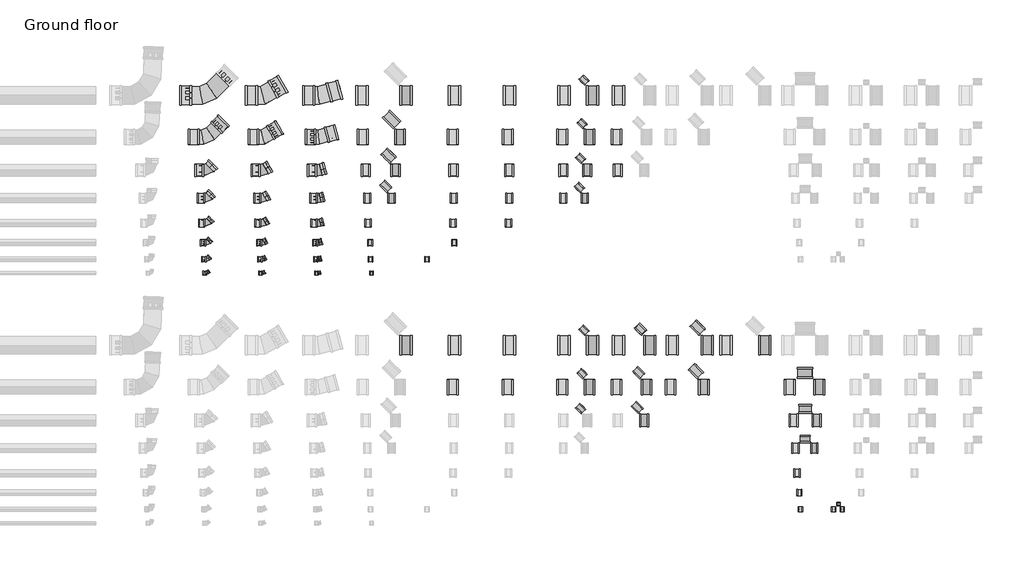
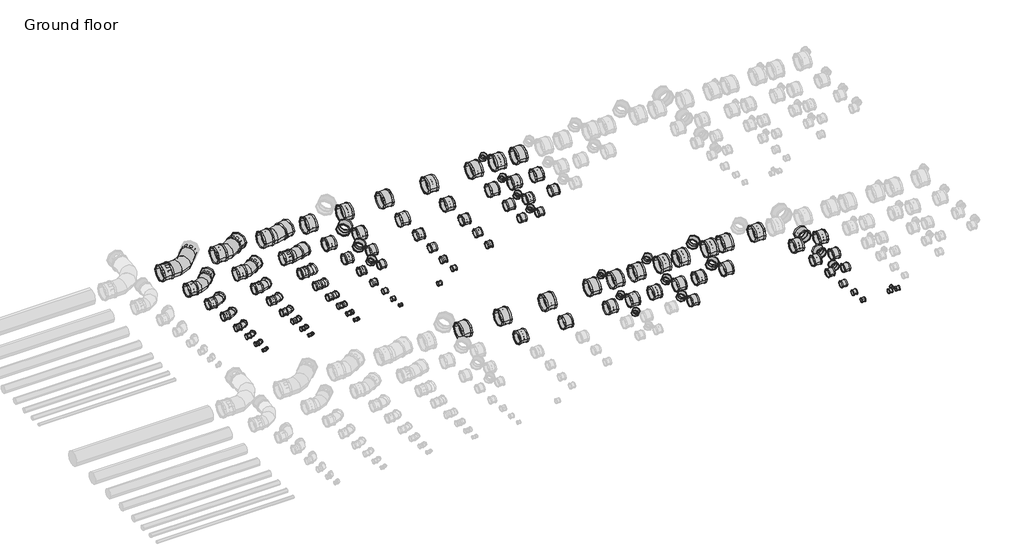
# One storey, part 3 of 14: 138 pipe fittings.
"""IFC4 building model written with IfcOpenShell, lengths in millimetres."""

from ifc_helpers import new_model, si_unit, origin, place, context, project, spatial, transform, mapped, element, save
from components import pipe_fitting_e5a81f0f, pipe_fitting_366f8f33, pipe_fitting_0ebad727, pipe_fitting_3dc9645f, pipe_fitting_b5a722ff, pipe_fitting_a818c1c7, pipe_fitting_9bc79c39, pipe_fitting_2c23b5e5, blue_8a6e1d2f, blue_6a90c062, blue_68ca3d6e, blue_9c2ccc73, blue_e60a5e92, blue_be0330f0, blue_8c50e030, blue_66bd3a30, blue_cd4b49a2, blue_58710f0b, blue_3e8714aa, blue_1fd363ef, blue_119fea42, blue_49925300, blue_168d1bee, blue_045a93d3, blue_ad261573, blue_5f6e9122, blue_0398ec3c, orange_d04369bb, blue_fd0dfc69, orange_f85f7f18, blue_b37b0867, orange_b2441087

model = new_model("IFC4")

# Units and contexts
model_context = context("Model", 3, world=origin())
ifc_project = project(units=[si_unit("LENGTHUNIT", "METRE", prefix="MILLI")], contexts=[model_context])

# Site, building, storey
site = spatial("IfcSite", under=ifc_project)
building = spatial("IfcBuilding", under=site)
storey = spatial("IfcBuildingStorey", under=building, Name="Ground floor", Elevation=0.0)

# Pipe fittings
placement = place(None, origin())
pipe_fitting_shape = pipe_fitting_e5a81f0f(model_context)
element("IfcPipeFitting", 1, ObjectType="AWADUKT PP Union DSM : Orange No PID", at=placement, inside=storey, context=model_context, shape_type="MappedRepresentation", body=[
    mapped(pipe_fitting_shape, transform((32771.0, 11700.0, 0.0), x_axis=(1.0, 0.0, 0.0), y_axis=(0.0, 1.0, 0.0), z_axis=(0.0, 0.0, 1.0))),
])
element("IfcPipeFitting", 2, ObjectType="AWADUKT PP Union DSM : Orange No PID", at=placement, inside=storey, context=model_context, shape_type="MappedRepresentation", body=[
    mapped(pipe_fitting_shape, transform((34796.0, 11700.0, 0.0), x_axis=(1.0, 0.0, 0.0), y_axis=(0.0, 1.0, 0.0), z_axis=(0.0, 0.0, 1.0))),
])
element("IfcPipeFitting", 3, ObjectType="AWADUKT PP Union DSM : Orange No PID", at=placement, inside=storey, context=model_context, shape_type="MappedRepresentation", body=[
    mapped(pipe_fitting_shape, transform((36820.0, 11700.0, 0.0), x_axis=(1.0, 0.0, 0.0), y_axis=(0.0, 1.0, 0.0), z_axis=(0.0, 0.0, 1.0))),
])
element("IfcPipeFitting", 4, ObjectType="AWADUKT PP Union DSM : Orange No PID", at=placement, inside=storey, context=model_context, shape_type="MappedRepresentation", body=[
    mapped(pipe_fitting_shape, transform((38753.0, 11700.0, 0.0), x_axis=(1.0, 0.0, 0.0), y_axis=(0.0, 1.0, 0.0), z_axis=(0.0, 0.0, 1.0))),
])
element("IfcPipeFitting", 5, ObjectType="AWADUKT PP Union DSM : Orange No PID", at=placement, inside=storey, context=model_context, shape_type="MappedRepresentation", body=[
    mapped(pipe_fitting_shape, transform((39629.0, 11700.0, 0.0), x_axis=(-1.0, 0.0, 0.0), y_axis=(0.0, -1.0, 0.0), z_axis=(0.0, 0.0, 1.0))),
])
element("IfcPipeFitting", 6, ObjectType="AWADUKT PP Union DSM : Orange No PID", at=placement, inside=storey, context=model_context, shape_type="MappedRepresentation", body=[
    mapped(pipe_fitting_shape, transform((39420.7285348, 12120.7285348, 0.0), x_axis=(0.7071067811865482, 0.7071067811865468, 0.0), y_axis=(-0.7071067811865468, 0.7071067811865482, 0.0), z_axis=(0.0, 0.0, 1.0))),
])
element("IfcPipeFitting", 7, ObjectType="AWADUKT PP Union DSM : Orange No PID", at=placement, inside=storey, context=model_context, shape_type="MappedRepresentation", body=[
    mapped(pipe_fitting_shape, transform((41863.0, 11700.0, 0.0), x_axis=(1.0, 0.0, 0.0), y_axis=(0.0, 1.0, 0.0), z_axis=(0.0, 0.0, 1.0))),
])
element("IfcPipeFitting", 8, ObjectType="AWADUKT PP Union DSM : Orange No PID", at=placement, inside=storey, context=model_context, shape_type="MappedRepresentation", body=[
    mapped(pipe_fitting_shape, transform((43859.0, 11700.0, 0.0), x_axis=(1.0, 0.0, 0.0), y_axis=(0.0, 1.0, 0.0), z_axis=(0.0, 0.0, 1.0))),
])
element("IfcPipeFitting", 9, ObjectType="AWADUKT PP Union DSM : Orange No PID", at=placement, inside=storey, context=model_context, shape_type="MappedRepresentation", body=[
    mapped(pipe_fitting_shape, transform((45799.0, 11700.0, 0.0), x_axis=(1.0, 0.0, 0.0), y_axis=(0.0, 1.0, 0.0), z_axis=(0.0, 0.0, 1.0))),
])
element("IfcPipeFitting", 10, ObjectType="AWADUKT PP Union DSM : Orange No PID", at=placement, inside=storey, context=model_context, shape_type="MappedRepresentation", body=[
    mapped(pipe_fitting_shape, transform((46582.0, 11700.0, 0.0), x_axis=(-1.0, 0.0, 0.0), y_axis=(0.0, -1.0, 0.0), z_axis=(0.0, 0.0, 1.0))),
])
pipe_fitting_2_shape = pipe_fitting_366f8f33(model_context)
element("IfcPipeFitting", 11, ObjectType="AWADUKT PP Union DSM : Blue No PID", at=placement, inside=storey, context=model_context, shape_type="MappedRepresentation", body=[
    mapped(pipe_fitting_2_shape, transform((40155.0, 6400.0, 0.0), x_axis=(-1.0, 0.0, 0.0), y_axis=(0.0, -1.0, 0.0), z_axis=(0.0, 0.0, 1.0))),
])
element("IfcPipeFitting", 12, ObjectType="AWADUKT PP Union DSM : Blue No PID", at=placement, inside=storey, context=model_context, shape_type="MappedRepresentation", body=[
    mapped(pipe_fitting_2_shape, transform((41891.0, 6400.0, 0.0), x_axis=(1.0, 0.0, 0.0), y_axis=(0.0, 1.0, 0.0), z_axis=(0.0, 0.0, 1.0))),
])
element("IfcPipeFitting", 13, ObjectType="AWADUKT PP Union DSM : Blue No PID", at=placement, inside=storey, context=model_context, shape_type="MappedRepresentation", body=[
    mapped(pipe_fitting_2_shape, transform((43863.0, 6400.0, 0.0), x_axis=(1.0, 0.0, 0.0), y_axis=(0.0, 1.0, 0.0), z_axis=(0.0, 0.0, 1.0))),
])
element("IfcPipeFitting", 14, ObjectType="AWADUKT PP Union DSM : Blue No PID", at=placement, inside=storey, context=model_context, shape_type="MappedRepresentation", body=[
    mapped(pipe_fitting_2_shape, transform((45827.0, 6400.0, 0.0), x_axis=(1.0, 0.0, 0.0), y_axis=(0.0, 1.0, 0.0), z_axis=(0.0, 0.0, 1.0))),
])
element("IfcPipeFitting", 15, ObjectType="AWADUKT PP Union DSM : Blue No PID", at=placement, inside=storey, context=model_context, shape_type="MappedRepresentation", body=[
    mapped(pipe_fitting_2_shape, transform((46860.0, 6400.0, 0.0), x_axis=(-1.0, 0.0, 0.0), y_axis=(0.0, -1.0, 0.0), z_axis=(0.0, 0.0, 1.0))),
])
element("IfcPipeFitting", 16, ObjectType="AWADUKT PP Union DSM : Blue No PID", at=placement, inside=storey, context=model_context, shape_type="MappedRepresentation", body=[
    mapped(pipe_fitting_2_shape, transform((47781.0, 6400.0, 0.0), x_axis=(1.0, 0.0, 0.0), y_axis=(0.0, 1.0, 0.0), z_axis=(0.0, 0.0, 1.0))),
])
element("IfcPipeFitting", 17, ObjectType="AWADUKT PP Union DSM : Blue No PID", at=placement, inside=storey, context=model_context, shape_type="MappedRepresentation", body=[
    mapped(pipe_fitting_2_shape, transform((48921.0, 6400.0, 0.0), x_axis=(-1.0, 0.0, 0.0), y_axis=(0.0, -1.0, 0.0), z_axis=(0.0, 0.0, 1.0))),
])
element("IfcPipeFitting", 18, ObjectType="AWADUKT PP Union DSM : Blue No PID", at=placement, inside=storey, context=model_context, shape_type="MappedRepresentation", body=[
    mapped(pipe_fitting_2_shape, transform((49721.0, 6400.0, 0.0), x_axis=(1.0, 0.0, 0.0), y_axis=(0.0, 1.0, 0.0), z_axis=(0.0, 0.0, 1.0))),
])
element("IfcPipeFitting", 19, ObjectType="AWADUKT PP Union DSM : Blue No PID", at=placement, inside=storey, context=model_context, shape_type="MappedRepresentation", body=[
    mapped(pipe_fitting_2_shape, transform((50987.0, 6400.0, 0.0), x_axis=(-1.0, 0.0, 0.0), y_axis=(0.0, -1.0, 0.0), z_axis=(0.0, 0.0, 1.0))),
])
element("IfcPipeFitting", 20, ObjectType="AWADUKT PP Union DSM : Blue No PID", at=placement, inside=storey, context=model_context, shape_type="MappedRepresentation", body=[
    mapped(pipe_fitting_2_shape, transform((51650.0, 6400.0, 0.0), x_axis=(1.0, 0.0, 0.0), y_axis=(0.0, 1.0, 0.0), z_axis=(0.0, 0.0, 1.0))),
])
element("IfcPipeFitting", 21, ObjectType="AWADUKT PP Union DSM : Blue No PID", at=placement, inside=storey, context=model_context, shape_type="MappedRepresentation", body=[
    mapped(pipe_fitting_2_shape, transform((53054.0, 6400.0, 0.0), x_axis=(-1.0, 0.0, 0.0), y_axis=(0.0, -1.0, 0.0), z_axis=(0.0, 0.0, 1.0))),
])
pipe_fitting_3_shape = pipe_fitting_0ebad727(model_context)
element("IfcPipeFitting", 22, ObjectType="AWADUKT PP Union DSM : Blue No PID", at=placement, inside=storey, context=model_context, shape_type="MappedRepresentation", body=[
    mapped(pipe_fitting_3_shape, transform((55700.0, 690.0, 0.0), x_axis=(0.0, 1.0, 0.0), y_axis=(-1.0, 0.0, 0.0), z_axis=(0.0, 0.0, 1.0))),
])
pipe_fitting_4_shape = pipe_fitting_3dc9645f(model_context)
element("IfcPipeFitting", 23, ObjectType="AWADUKT PP Union DSM : Blue No PID", at=placement, inside=storey, context=model_context, shape_type="MappedRepresentation", body=[
    mapped(pipe_fitting_4_shape, transform((54326.0, 500.0, 0.0), x_axis=(1.0, 0.0, 0.0), y_axis=(0.0, 1.0, 0.0), z_axis=(0.0, 0.0, 1.0))),
])
element("IfcPipeFitting", 24, ObjectType="AWADUKT PP Union DSM : Blue No PID", at=placement, inside=storey, context=model_context, shape_type="MappedRepresentation", body=[
    mapped(pipe_fitting_4_shape, transform((55524.0, 500.0, 0.0), x_axis=(1.0, 0.0, 0.0), y_axis=(0.0, 1.0, 0.0), z_axis=(0.0, 0.0, 1.0))),
])
element("IfcPipeFitting", 25, ObjectType="AWADUKT PP Union DSM : Blue No PID", at=placement, inside=storey, context=model_context, shape_type="MappedRepresentation", body=[
    mapped(pipe_fitting_4_shape, transform((55839.0, 500.0, 0.0), x_axis=(-1.0, 0.0, 0.0), y_axis=(0.0, -1.0, 0.0), z_axis=(0.0, 0.0, 1.0))),
])
pipe_fitting_5_shape = pipe_fitting_b5a722ff(model_context)
element("IfcPipeFitting", 26, ObjectType="AWADUKT PP Union DSM : Blue No PID", at=placement, inside=storey, context=model_context, shape_type="MappedRepresentation", body=[
    mapped(pipe_fitting_5_shape, transform((54294.1, 1100.0, 0.0), x_axis=(1.0, 0.0, 0.0), y_axis=(0.0, 1.0, 0.0), z_axis=(0.0, 0.0, 1.0))),
])
pipe_fitting_6_shape = pipe_fitting_a818c1c7(model_context)
element("IfcPipeFitting", 27, ObjectType="AWADUKT PP Union DSM : Blue No PID", at=placement, inside=storey, context=model_context, shape_type="MappedRepresentation", body=[
    mapped(pipe_fitting_6_shape, transform((46424.2640687, 4124.2640687, 0.0), x_axis=(0.7071067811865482, 0.7071067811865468, 0.0), y_axis=(-0.7071067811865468, 0.7071067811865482, 0.0), z_axis=(0.0, 0.0, 1.0))),
])
element("IfcPipeFitting", 28, ObjectType="AWADUKT PP Union DSM : Blue No PID", at=placement, inside=storey, context=model_context, shape_type="MappedRepresentation", body=[
    mapped(pipe_fitting_6_shape, transform((46480.8326112, 5380.8326112, 0.0), x_axis=(0.7071067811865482, 0.7071067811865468, 0.0), y_axis=(-0.7071067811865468, 0.7071067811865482, 0.0), z_axis=(0.0, 0.0, 1.0))),
])
element("IfcPipeFitting", 29, ObjectType="AWADUKT PP Union DSM : Blue No PID", at=placement, inside=storey, context=model_context, shape_type="MappedRepresentation", body=[
    mapped(pipe_fitting_6_shape, transform((46544.4722215, 6944.4722215, 0.0), x_axis=(0.7071067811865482, 0.7071067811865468, 0.0), y_axis=(-0.7071067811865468, 0.7071067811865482, 0.0), z_axis=(0.0, 0.0, 1.0))),
])
element("IfcPipeFitting", 30, ObjectType="AWADUKT PP Union DSM : Blue No PID", at=placement, inside=storey, context=model_context, shape_type="MappedRepresentation", body=[
    mapped(pipe_fitting_6_shape, transform((54204.0, 1800.0, 0.0), x_axis=(1.0, 0.0, 0.0), y_axis=(0.0, 1.0, 0.0), z_axis=(0.0, 0.0, 1.0))),
])
element("IfcPipeFitting", 31, ObjectType="AWADUKT PP Union DSM : Blue No PID", at=placement, inside=storey, context=model_context, shape_type="MappedRepresentation", body=[
    mapped(pipe_fitting_shape, transform((48463.1549417, 4163.1549417, 0.0), x_axis=(0.7071067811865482, 0.7071067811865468, 0.0), y_axis=(-0.7071067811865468, 0.7071067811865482, 0.0), z_axis=(0.0, 0.0, 1.0))),
])
element("IfcPipeFitting", 32, ObjectType="AWADUKT PP Union DSM : Blue No PID", at=placement, inside=storey, context=model_context, shape_type="MappedRepresentation", body=[
    mapped(pipe_fitting_shape, transform((48516.1879503, 5416.1879503, 0.0), x_axis=(0.7071067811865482, 0.7071067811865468, 0.0), y_axis=(-0.7071067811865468, 0.7071067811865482, 0.0), z_axis=(0.0, 0.0, 1.0))),
])
element("IfcPipeFitting", 33, ObjectType="AWADUKT PP Union DSM : Blue No PID", at=placement, inside=storey, context=model_context, shape_type="MappedRepresentation", body=[
    mapped(pipe_fitting_shape, transform((48579.8275606, 6979.8275606, 0.0), x_axis=(0.7071067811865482, 0.7071067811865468, 0.0), y_axis=(-0.7071067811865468, 0.7071067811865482, 0.0), z_axis=(0.0, 0.0, 1.0))),
])
element("IfcPipeFitting", 34, ObjectType="AWADUKT PP Union DSM : Blue No PID", at=placement, inside=storey, context=model_context, shape_type="MappedRepresentation", body=[
    mapped(pipe_fitting_shape, transform((54151.0, 2700.0, 0.0), x_axis=(1.0, 0.0, 0.0), y_axis=(0.0, 1.0, 0.0), z_axis=(0.0, 0.0, 1.0))),
])
element("IfcPipeFitting", 35, ObjectType="AWADUKT PP Union DSM : Blue No PID", at=placement, inside=storey, context=model_context, shape_type="MappedRepresentation", body=[
    mapped(pipe_fitting_shape, transform((54832.0, 2700.0, 0.0), x_axis=(-1.0, 0.0, 0.0), y_axis=(0.0, -1.0, 0.0), z_axis=(0.0, 0.0, 1.0))),
])
element("IfcPipeFitting", 36, ObjectType="AWADUKT PP Union DSM : Blue No PID", at=placement, inside=storey, context=model_context, shape_type="MappedRepresentation", body=[
    mapped(pipe_fitting_shape, transform((54500.0, 3025.0, 0.0), x_axis=(0.0, 1.0, 0.0), y_axis=(-1.0, 0.0, 0.0), z_axis=(0.0, 0.0, 1.0))),
])
pipe_fitting_7_shape = pipe_fitting_9bc79c39(model_context)
element("IfcPipeFitting", 37, ObjectType="AWADUKT PP Union DSM : Blue No PID", at=placement, inside=storey, context=model_context, shape_type="MappedRepresentation", body=[
    mapped(pipe_fitting_7_shape, transform((48714.0, 3700.0, 0.0), x_axis=(-1.0, 0.0, 0.0), y_axis=(0.0, -1.0, 0.0), z_axis=(0.0, 0.0, 1.0))),
])
element("IfcPipeFitting", 38, ObjectType="AWADUKT PP Union DSM : Blue No PID", at=placement, inside=storey, context=model_context, shape_type="MappedRepresentation", body=[
    mapped(pipe_fitting_7_shape, transform((50572.7564928, 5472.7564928, 0.0), x_axis=(0.7071067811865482, 0.7071067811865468, 0.0), y_axis=(-0.7071067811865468, 0.7071067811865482, 0.0), z_axis=(0.0, 0.0, 1.0))),
])
element("IfcPipeFitting", 39, ObjectType="AWADUKT PP Union DSM : Blue No PID", at=placement, inside=storey, context=model_context, shape_type="MappedRepresentation", body=[
    mapped(pipe_fitting_7_shape, transform((50636.3961031, 7036.3961031, 0.0), x_axis=(0.7071067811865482, 0.7071067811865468, 0.0), y_axis=(-0.7071067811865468, 0.7071067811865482, 0.0), z_axis=(0.0, 0.0, 1.0))),
])
element("IfcPipeFitting", 40, ObjectType="AWADUKT PP Union DSM : Blue No PID", at=placement, inside=storey, context=model_context, shape_type="MappedRepresentation", body=[
    mapped(pipe_fitting_7_shape, transform((54081.0, 3700.0, 0.0), x_axis=(1.0, 0.0, 0.0), y_axis=(0.0, 1.0, 0.0), z_axis=(0.0, 0.0, 1.0))),
])
element("IfcPipeFitting", 41, ObjectType="AWADUKT PP Union DSM : Blue No PID", at=placement, inside=storey, context=model_context, shape_type="MappedRepresentation", body=[
    mapped(pipe_fitting_7_shape, transform((54919.0, 3700.0, 0.0), x_axis=(-1.0, 0.0, 0.0), y_axis=(0.0, -1.0, 0.0), z_axis=(0.0, 0.0, 1.0))),
])
element("IfcPipeFitting", 42, ObjectType="AWADUKT PP Union DSM : Blue No PID", at=placement, inside=storey, context=model_context, shape_type="MappedRepresentation", body=[
    mapped(pipe_fitting_7_shape, transform((54500.0, 4110.0, 0.0), x_axis=(0.0, 1.0, 0.0), y_axis=(-1.0, 0.0, 0.0), z_axis=(0.0, 0.0, 1.0))),
])
pipe_fitting_8_shape = pipe_fitting_2c23b5e5(model_context)
element("IfcPipeFitting", 43, ObjectType="AWADUKT PP Union DSM : Blue No PID", at=placement, inside=storey, context=model_context, shape_type="MappedRepresentation", body=[
    mapped(pipe_fitting_8_shape, transform((41826.0, 4900.0, 0.0), x_axis=(1.0, 0.0, 0.0), y_axis=(0.0, 1.0, 0.0), z_axis=(0.0, 0.0, 1.0))),
])
element("IfcPipeFitting", 44, ObjectType="AWADUKT PP Union DSM : Blue No PID", at=placement, inside=storey, context=model_context, shape_type="MappedRepresentation", body=[
    mapped(pipe_fitting_8_shape, transform((43798.0, 4900.0, 0.0), x_axis=(1.0, 0.0, 0.0), y_axis=(0.0, 1.0, 0.0), z_axis=(0.0, 0.0, 1.0))),
])
element("IfcPipeFitting", 45, ObjectType="AWADUKT PP Union DSM : Blue No PID", at=placement, inside=storey, context=model_context, shape_type="MappedRepresentation", body=[
    mapped(pipe_fitting_8_shape, transform((45762.0, 4900.0, 0.0), x_axis=(1.0, 0.0, 0.0), y_axis=(0.0, 1.0, 0.0), z_axis=(0.0, 0.0, 1.0))),
])
element("IfcPipeFitting", 46, ObjectType="AWADUKT PP Union DSM : Blue No PID", at=placement, inside=storey, context=model_context, shape_type="MappedRepresentation", body=[
    mapped(pipe_fitting_8_shape, transform((46751.0, 4900.0, 0.0), x_axis=(-1.0, 0.0, 0.0), y_axis=(0.0, -1.0, 0.0), z_axis=(0.0, 0.0, 1.0))),
])
element("IfcPipeFitting", 47, ObjectType="AWADUKT PP Union DSM : Blue No PID", at=placement, inside=storey, context=model_context, shape_type="MappedRepresentation", body=[
    mapped(pipe_fitting_8_shape, transform((47716.0, 4900.0, 0.0), x_axis=(1.0, 0.0, 0.0), y_axis=(0.0, 1.0, 0.0), z_axis=(0.0, 0.0, 1.0))),
])
element("IfcPipeFitting", 48, ObjectType="AWADUKT PP Union DSM : Blue No PID", at=placement, inside=storey, context=model_context, shape_type="MappedRepresentation", body=[
    mapped(pipe_fitting_8_shape, transform((48801.0, 4900.0, 0.0), x_axis=(-1.0, 0.0, 0.0), y_axis=(0.0, -1.0, 0.0), z_axis=(0.0, 0.0, 1.0))),
])
element("IfcPipeFitting", 49, ObjectType="AWADUKT PP Union DSM : Blue No PID", at=placement, inside=storey, context=model_context, shape_type="MappedRepresentation", body=[
    mapped(pipe_fitting_8_shape, transform((49656.0, 4900.0, 0.0), x_axis=(1.0, 0.0, 0.0), y_axis=(0.0, 1.0, 0.0), z_axis=(0.0, 0.0, 1.0))),
])
element("IfcPipeFitting", 50, ObjectType="AWADUKT PP Union DSM : Blue No PID", at=placement, inside=storey, context=model_context, shape_type="MappedRepresentation", body=[
    mapped(pipe_fitting_8_shape, transform((50866.0, 4900.0, 0.0), x_axis=(-1.0, 0.0, 0.0), y_axis=(0.0, -1.0, 0.0), z_axis=(0.0, 0.0, 1.0))),
])
element("IfcPipeFitting", 51, ObjectType="AWADUKT PP Union DSM : Blue No PID", at=placement, inside=storey, context=model_context, shape_type="MappedRepresentation", body=[
    mapped(pipe_fitting_8_shape, transform((53939.0, 4900.0, 0.0), x_axis=(1.0, 0.0, 0.0), y_axis=(0.0, 1.0, 0.0), z_axis=(0.0, 0.0, 1.0))),
])
element("IfcPipeFitting", 52, ObjectType="AWADUKT PP Union DSM : Blue No PID", at=placement, inside=storey, context=model_context, shape_type="MappedRepresentation", body=[
    mapped(pipe_fitting_8_shape, transform((55010.0, 4900.0, 0.0), x_axis=(-1.0, 0.0, 0.0), y_axis=(0.0, -1.0, 0.0), z_axis=(0.0, 0.0, 1.0))),
])
element("IfcPipeFitting", 53, ObjectType="AWADUKT PP Union DSM : Blue No PID", at=placement, inside=storey, context=model_context, shape_type="MappedRepresentation", body=[
    mapped(pipe_fitting_8_shape, transform((54500.0, 5399.0, 0.0), x_axis=(0.0, 1.0, 0.0), y_axis=(-1.0, 0.0, 0.0), z_axis=(0.0, 0.0, 1.0))),
])
element("IfcPipeFitting", 54, ObjectType="AWADUKT PP Union DSM : Orange No PID", at=placement, inside=storey, context=model_context, shape_type="MappedRepresentation", body=[
    mapped(pipe_fitting_3_shape, transform((32909.0, 9000.0, 0.0), x_axis=(1.0, 0.0, 0.0), y_axis=(0.0, 1.0, 0.0), z_axis=(0.0, 0.0, 1.0))),
])
element("IfcPipeFitting", 55, ObjectType="AWADUKT PP Union DSM : Orange No PID", at=placement, inside=storey, context=model_context, shape_type="MappedRepresentation", body=[
    mapped(pipe_fitting_3_shape, transform((34918.0, 9000.0, 0.0), x_axis=(1.0, 0.0, 0.0), y_axis=(0.0, 1.0, 0.0), z_axis=(0.0, 0.0, 1.0))),
])
element("IfcPipeFitting", 56, ObjectType="AWADUKT PP Union DSM : Orange No PID", at=placement, inside=storey, context=model_context, shape_type="MappedRepresentation", body=[
    mapped(pipe_fitting_3_shape, transform((36927.0, 9000.0, 0.0), x_axis=(1.0, 0.0, 0.0), y_axis=(0.0, 1.0, 0.0), z_axis=(0.0, 0.0, 1.0))),
])
element("IfcPipeFitting", 57, ObjectType="AWADUKT PP Union DSM : Orange No PID", at=placement, inside=storey, context=model_context, shape_type="MappedRepresentation", body=[
    mapped(pipe_fitting_3_shape, transform((38908.0, 9000.0, 0.0), x_axis=(1.0, 0.0, 0.0), y_axis=(0.0, 1.0, 0.0), z_axis=(0.0, 0.0, 1.0))),
])
element("IfcPipeFitting", 58, ObjectType="AWADUKT PP Union DSM : Orange No PID", at=placement, inside=storey, context=model_context, shape_type="MappedRepresentation", body=[
    mapped(pipe_fitting_4_shape, transform((32877.0, 9500.0, 0.0), x_axis=(1.0, 0.0, 0.0), y_axis=(0.0, 1.0, 0.0), z_axis=(0.0, 0.0, 1.0))),
])
element("IfcPipeFitting", 59, ObjectType="AWADUKT PP Union DSM : Orange No PID", at=placement, inside=storey, context=model_context, shape_type="MappedRepresentation", body=[
    mapped(pipe_fitting_4_shape, transform((34890.0, 9500.0, 0.0), x_axis=(1.0, 0.0, 0.0), y_axis=(0.0, 1.0, 0.0), z_axis=(0.0, 0.0, 1.0))),
])
element("IfcPipeFitting", 60, ObjectType="AWADUKT PP Union DSM : Orange No PID", at=placement, inside=storey, context=model_context, shape_type="MappedRepresentation", body=[
    mapped(pipe_fitting_4_shape, transform((36902.0, 9500.0, 0.0), x_axis=(1.0, 0.0, 0.0), y_axis=(0.0, 1.0, 0.0), z_axis=(0.0, 0.0, 1.0))),
])
element("IfcPipeFitting", 61, ObjectType="AWADUKT PP Union DSM : Orange No PID", at=placement, inside=storey, context=model_context, shape_type="MappedRepresentation", body=[
    mapped(pipe_fitting_4_shape, transform((38872.0, 9500.0, 0.0), x_axis=(1.0, 0.0, 0.0), y_axis=(0.0, 1.0, 0.0), z_axis=(0.0, 0.0, 1.0))),
])
element("IfcPipeFitting", 62, ObjectType="AWADUKT PP Union DSM : Orange No PID", at=placement, inside=storey, context=model_context, shape_type="MappedRepresentation", body=[
    mapped(pipe_fitting_4_shape, transform((40905.0, 9500.0, 0.0), x_axis=(1.0, 0.0, 0.0), y_axis=(0.0, 1.0, 0.0), z_axis=(0.0, 0.0, 1.0))),
])
element("IfcPipeFitting", 63, ObjectType="AWADUKT PP Union DSM : Orange No PID", at=placement, inside=storey, context=model_context, shape_type="MappedRepresentation", body=[
    mapped(pipe_fitting_5_shape, transform((32847.5, 10100.0, 0.0), x_axis=(1.0, 0.0, 0.0), y_axis=(0.0, 1.0, 0.0), z_axis=(0.0, 0.0, 1.0))),
])
element("IfcPipeFitting", 64, ObjectType="AWADUKT PP Union DSM : Orange No PID", at=placement, inside=storey, context=model_context, shape_type="MappedRepresentation", body=[
    mapped(pipe_fitting_5_shape, transform((34863.5, 10100.0, 0.0), x_axis=(1.0, 0.0, 0.0), y_axis=(0.0, 1.0, 0.0), z_axis=(0.0, 0.0, 1.0))),
])
element("IfcPipeFitting", 65, ObjectType="AWADUKT PP Union DSM : Orange No PID", at=placement, inside=storey, context=model_context, shape_type="MappedRepresentation", body=[
    mapped(pipe_fitting_5_shape, transform((36878.5, 10100.0, 0.0), x_axis=(1.0, 0.0, 0.0), y_axis=(0.0, 1.0, 0.0), z_axis=(0.0, 0.0, 1.0))),
])
element("IfcPipeFitting", 66, ObjectType="AWADUKT PP Union DSM : Orange No PID", at=placement, inside=storey, context=model_context, shape_type="MappedRepresentation", body=[
    mapped(pipe_fitting_5_shape, transform((38855.1, 10100.0, 0.0), x_axis=(1.0, 0.0, 0.0), y_axis=(0.0, 1.0, 0.0), z_axis=(0.0, 0.0, 1.0))),
])
element("IfcPipeFitting", 67, ObjectType="AWADUKT PP Union DSM : Orange No PID", at=placement, inside=storey, context=model_context, shape_type="MappedRepresentation", body=[
    mapped(pipe_fitting_5_shape, transform((41884.4, 10100.0, 0.0), x_axis=(1.0, 0.0, 0.0), y_axis=(0.0, 1.0, 0.0), z_axis=(0.0, 0.0, 1.0))),
])
element("IfcPipeFitting", 68, ObjectType="AWADUKT PP Union DSM : Orange No PID", at=placement, inside=storey, context=model_context, shape_type="MappedRepresentation", body=[
    mapped(pipe_fitting_6_shape, transform((32797.0, 10800.0, 0.0), x_axis=(1.0, 0.0, 0.0), y_axis=(0.0, 1.0, 0.0), z_axis=(0.0, 0.0, 1.0))),
])
element("IfcPipeFitting", 69, ObjectType="AWADUKT PP Union DSM : Orange No PID", at=placement, inside=storey, context=model_context, shape_type="MappedRepresentation", body=[
    mapped(pipe_fitting_6_shape, transform((34817.0, 10800.0, 0.0), x_axis=(1.0, 0.0, 0.0), y_axis=(0.0, 1.0, 0.0), z_axis=(0.0, 0.0, 1.0))),
])
element("IfcPipeFitting", 70, ObjectType="AWADUKT PP Union DSM : Orange No PID", at=placement, inside=storey, context=model_context, shape_type="MappedRepresentation", body=[
    mapped(pipe_fitting_6_shape, transform((36835.0, 10800.0, 0.0), x_axis=(1.0, 0.0, 0.0), y_axis=(0.0, 1.0, 0.0), z_axis=(0.0, 0.0, 1.0))),
])
element("IfcPipeFitting", 71, ObjectType="AWADUKT PP Union DSM : Orange No PID", at=placement, inside=storey, context=model_context, shape_type="MappedRepresentation", body=[
    mapped(pipe_fitting_6_shape, transform((38777.0, 10800.0, 0.0), x_axis=(1.0, 0.0, 0.0), y_axis=(0.0, 1.0, 0.0), z_axis=(0.0, 0.0, 1.0))),
])
element("IfcPipeFitting", 72, ObjectType="AWADUKT PP Union DSM : Orange No PID", at=placement, inside=storey, context=model_context, shape_type="MappedRepresentation", body=[
    mapped(pipe_fitting_6_shape, transform((41832.0, 10800.0, 0.0), x_axis=(1.0, 0.0, 0.0), y_axis=(0.0, 1.0, 0.0), z_axis=(0.0, 0.0, 1.0))),
])
element("IfcPipeFitting", 73, ObjectType="AWADUKT PP Union DSM : Orange No PID", at=placement, inside=storey, context=model_context, shape_type="MappedRepresentation", body=[
    mapped(pipe_fitting_6_shape, transform((43832.0, 10800.0, 0.0), x_axis=(1.0, 0.0, 0.0), y_axis=(0.0, 1.0, 0.0), z_axis=(0.0, 0.0, 1.0))),
])
element("IfcPipeFitting", 74, ObjectType="AWADUKT PP Union DSM : Orange No PID", at=placement, inside=storey, context=model_context, shape_type="MappedRepresentation", body=[
    mapped(pipe_fitting_6_shape, transform((46381.8376618, 12081.8376618, 0.0), x_axis=(0.7071067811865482, 0.7071067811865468, 0.0), y_axis=(-0.7071067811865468, 0.7071067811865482, 0.0), z_axis=(0.0, 0.0, 1.0))),
])
element("IfcPipeFitting", 75, ObjectType="AWADUKT PP Union DSM : Orange No PID", at=placement, inside=storey, context=model_context, shape_type="MappedRepresentation", body=[
    mapped(pipe_fitting_6_shape, transform((46424.2640687, 13124.2640687, 0.0), x_axis=(0.7071067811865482, 0.7071067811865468, 0.0), y_axis=(-0.7071067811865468, 0.7071067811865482, 0.0), z_axis=(0.0, 0.0, 1.0))),
])
element("IfcPipeFitting", 76, ObjectType="AWADUKT PP Union DSM : Orange No PID", at=placement, inside=storey, context=model_context, shape_type="MappedRepresentation", body=[
    mapped(pipe_fitting_6_shape, transform((46480.8326112, 14380.8326112, 0.0), x_axis=(0.7071067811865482, 0.7071067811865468, 0.0), y_axis=(-0.7071067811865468, 0.7071067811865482, 0.0), z_axis=(0.0, 0.0, 1.0))),
])
element("IfcPipeFitting", 77, ObjectType="AWADUKT PP Union DSM : Orange No PID", at=placement, inside=storey, context=model_context, shape_type="MappedRepresentation", body=[
    mapped(pipe_fitting_6_shape, transform((46544.4722215, 15944.4722215, 0.0), x_axis=(0.7071067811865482, 0.7071067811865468, 0.0), y_axis=(-0.7071067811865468, 0.7071067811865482, 0.0), z_axis=(0.0, 0.0, 1.0))),
])
element("IfcPipeFitting", 78, ObjectType="AWADUKT PP Union DSM : Orange No PID", at=placement, inside=storey, context=model_context, shape_type="MappedRepresentation", body=[
    mapped(pipe_fitting_7_shape, transform((32709.0, 12700.0, 0.0), x_axis=(1.0, 0.0, 0.0), y_axis=(0.0, 1.0, 0.0), z_axis=(0.0, 0.0, 1.0))),
])
element("IfcPipeFitting", 79, ObjectType="AWADUKT PP Union DSM : Orange No PID", at=placement, inside=storey, context=model_context, shape_type="MappedRepresentation", body=[
    mapped(pipe_fitting_7_shape, transform((34738.0, 12700.0, 0.0), x_axis=(1.0, 0.0, 0.0), y_axis=(0.0, 1.0, 0.0), z_axis=(0.0, 0.0, 1.0))),
])
element("IfcPipeFitting", 80, ObjectType="AWADUKT PP Union DSM : Orange No PID", at=placement, inside=storey, context=model_context, shape_type="MappedRepresentation", body=[
    mapped(pipe_fitting_7_shape, transform((36764.4, 12700.0, 0.0), x_axis=(1.0, 0.0, 0.0), y_axis=(0.0, 1.0, 0.0), z_axis=(0.0, 0.0, 1.0))),
])
element("IfcPipeFitting", 81, ObjectType="AWADUKT PP Union DSM : Orange No PID", at=placement, inside=storey, context=model_context, shape_type="MappedRepresentation", body=[
    mapped(pipe_fitting_7_shape, transform((38698.0, 12700.0, 0.0), x_axis=(1.0, 0.0, 0.0), y_axis=(0.0, 1.0, 0.0), z_axis=(0.0, 0.0, 1.0))),
])
element("IfcPipeFitting", 82, ObjectType="AWADUKT PP Union DSM : Orange No PID", at=placement, inside=storey, context=model_context, shape_type="MappedRepresentation", body=[
    mapped(pipe_fitting_7_shape, transform((39777.0, 12700.0, 0.0), x_axis=(-1.0, 0.0, 0.0), y_axis=(0.0, -1.0, 0.0), z_axis=(0.0, 0.0, 1.0))),
])
element("IfcPipeFitting", 83, ObjectType="AWADUKT PP Union DSM : Orange No PID", at=placement, inside=storey, context=model_context, shape_type="MappedRepresentation", body=[
    mapped(pipe_fitting_7_shape, transform((39519.7234842, 13219.7234842, 0.0), x_axis=(0.7071067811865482, 0.7071067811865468, 0.0), y_axis=(-0.7071067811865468, 0.7071067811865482, 0.0), z_axis=(0.0, 0.0, 1.0))),
])
element("IfcPipeFitting", 84, ObjectType="AWADUKT PP Union DSM : Orange No PID", at=placement, inside=storey, context=model_context, shape_type="MappedRepresentation", body=[
    mapped(pipe_fitting_7_shape, transform((41854.0, 12700.0, 0.0), x_axis=(1.0, 0.0, 0.0), y_axis=(0.0, 1.0, 0.0), z_axis=(0.0, 0.0, 1.0))),
])
element("IfcPipeFitting", 85, ObjectType="AWADUKT PP Union DSM : Orange No PID", at=placement, inside=storey, context=model_context, shape_type="MappedRepresentation", body=[
    mapped(pipe_fitting_7_shape, transform((43854.0, 12700.0, 0.0), x_axis=(1.0, 0.0, 0.0), y_axis=(0.0, 1.0, 0.0), z_axis=(0.0, 0.0, 1.0))),
])
element("IfcPipeFitting", 86, ObjectType="AWADUKT PP Union DSM : Orange No PID", at=placement, inside=storey, context=model_context, shape_type="MappedRepresentation", body=[
    mapped(pipe_fitting_7_shape, transform((45805.0, 12700.0, 0.0), x_axis=(1.0, 0.0, 0.0), y_axis=(0.0, 1.0, 0.0), z_axis=(0.0, 0.0, 1.0))),
])
element("IfcPipeFitting", 87, ObjectType="AWADUKT PP Union DSM : Orange No PID", at=placement, inside=storey, context=model_context, shape_type="MappedRepresentation", body=[
    mapped(pipe_fitting_7_shape, transform((46664.0, 12700.0, 0.0), x_axis=(-1.0, 0.0, 0.0), y_axis=(0.0, -1.0, 0.0), z_axis=(0.0, 0.0, 1.0))),
])
element("IfcPipeFitting", 88, ObjectType="AWADUKT PP Union DSM : Orange No PID", at=placement, inside=storey, context=model_context, shape_type="MappedRepresentation", body=[
    mapped(pipe_fitting_7_shape, transform((47760.0, 12700.0, 0.0), x_axis=(1.0, 0.0, 0.0), y_axis=(0.0, 1.0, 0.0), z_axis=(0.0, 0.0, 1.0))),
])
element("IfcPipeFitting", 89, ObjectType="AWADUKT PP Union DSM : Orange No PID", at=placement, inside=storey, context=model_context, shape_type="MappedRepresentation", body=[
    mapped(pipe_fitting_8_shape, transform((33458.2051942, 14358.2051942, 0.0), x_axis=(0.7071067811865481, 0.707106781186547, 0.0), y_axis=(-0.707106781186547, 0.7071067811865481, 0.0), z_axis=(0.0, 0.0, 1.0))),
])
element("IfcPipeFitting", 90, ObjectType="AWADUKT PP Union DSM : Orange No PID", at=placement, inside=storey, context=model_context, shape_type="MappedRepresentation", body=[
    mapped(pipe_fitting_8_shape, transform((32509.0, 13900.0, 0.0), x_axis=(1.0, 0.0, 0.0), y_axis=(0.0, 1.0, 0.0), z_axis=(0.0, 0.0, 1.0))),
])
element("IfcPipeFitting", 91, ObjectType="AWADUKT PP Union DSM : Orange No PID", at=placement, inside=storey, context=model_context, shape_type="MappedRepresentation", body=[
    mapped(pipe_fitting_8_shape, transform((35429.5486003, 14148.0, 0.0), x_axis=(0.8660254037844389, 0.49999999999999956, 0.0), y_axis=(-0.49999999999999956, 0.8660254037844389, 0.0), z_axis=(0.0, 0.0, 1.0))),
])
element("IfcPipeFitting", 92, ObjectType="AWADUKT PP Union DSM : Orange No PID", at=placement, inside=storey, context=model_context, shape_type="MappedRepresentation", body=[
    mapped(pipe_fitting_8_shape, transform((34659.0, 13900.0, 0.0), x_axis=(1.0, 0.0, 0.0), y_axis=(0.0, 1.0, 0.0), z_axis=(0.0, 0.0, 1.0))),
])
element("IfcPipeFitting", 93, ObjectType="AWADUKT PP Union DSM : Orange No PID", at=placement, inside=storey, context=model_context, shape_type="MappedRepresentation", body=[
    mapped(pipe_fitting_8_shape, transform((37458.8147675, 14022.9390464, 0.0), x_axis=(0.9659258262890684, 0.2588190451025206, 0.0), y_axis=(-0.2588190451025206, 0.9659258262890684, 0.0), z_axis=(0.0, 0.0, 1.0))),
])
element("IfcPipeFitting", 94, ObjectType="AWADUKT PP Union DSM : Orange No PID", at=placement, inside=storey, context=model_context, shape_type="MappedRepresentation", body=[
    mapped(pipe_fitting_8_shape, transform((36707.0, 13900.0, 0.0), x_axis=(1.0, 0.0, 0.0), y_axis=(0.0, 1.0, 0.0), z_axis=(0.0, 0.0, 1.0))),
])
element("IfcPipeFitting", 95, ObjectType="AWADUKT PP Union DSM : Orange No PID", at=placement, inside=storey, context=model_context, shape_type="MappedRepresentation", body=[
    mapped(pipe_fitting_8_shape, transform((38585.0, 13900.0, 0.0), x_axis=(1.0, 0.0, 0.0), y_axis=(0.0, 1.0, 0.0), z_axis=(0.0, 0.0, 1.0))),
])
element("IfcPipeFitting", 96, ObjectType="AWADUKT PP Union DSM : Orange No PID", at=placement, inside=storey, context=model_context, shape_type="MappedRepresentation", body=[
    mapped(pipe_fitting_8_shape, transform((39941.0, 13900.0, 0.0), x_axis=(-1.0, 0.0, 0.0), y_axis=(0.0, -1.0, 0.0), z_axis=(0.0, 0.0, 1.0))),
])
element("IfcPipeFitting", 97, ObjectType="AWADUKT PP Union DSM : Orange No PID", at=placement, inside=storey, context=model_context, shape_type="MappedRepresentation", body=[
    mapped(pipe_fitting_8_shape, transform((39625.7895014, 14525.7895014, 0.0), x_axis=(0.7071067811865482, 0.7071067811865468, 0.0), y_axis=(-0.7071067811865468, 0.7071067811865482, 0.0), z_axis=(0.0, 0.0, 1.0))),
])
element("IfcPipeFitting", 98, ObjectType="AWADUKT PP Union DSM : Orange No PID", at=placement, inside=storey, context=model_context, shape_type="MappedRepresentation", body=[
    mapped(pipe_fitting_8_shape, transform((41826.0, 13900.0, 0.0), x_axis=(1.0, 0.0, 0.0), y_axis=(0.0, 1.0, 0.0), z_axis=(0.0, 0.0, 1.0))),
])
element("IfcPipeFitting", 99, ObjectType="AWADUKT PP Union DSM : Orange No PID", at=placement, inside=storey, context=model_context, shape_type="MappedRepresentation", body=[
    mapped(pipe_fitting_8_shape, transform((43798.0, 13900.0, 0.0), x_axis=(1.0, 0.0, 0.0), y_axis=(0.0, 1.0, 0.0), z_axis=(0.0, 0.0, 1.0))),
])
element("IfcPipeFitting", 100, ObjectType="AWADUKT PP Union DSM : Orange No PID", at=placement, inside=storey, context=model_context, shape_type="MappedRepresentation", body=[
    mapped(pipe_fitting_8_shape, transform((45762.0, 13900.0, 0.0), x_axis=(1.0, 0.0, 0.0), y_axis=(0.0, 1.0, 0.0), z_axis=(0.0, 0.0, 1.0))),
])
element("IfcPipeFitting", 101, ObjectType="AWADUKT PP Union DSM : Orange No PID", at=placement, inside=storey, context=model_context, shape_type="MappedRepresentation", body=[
    mapped(pipe_fitting_8_shape, transform((46751.0, 13900.0, 0.0), x_axis=(-1.0, 0.0, 0.0), y_axis=(0.0, -1.0, 0.0), z_axis=(0.0, 0.0, 1.0))),
])
element("IfcPipeFitting", 102, ObjectType="AWADUKT PP Union DSM : Orange No PID", at=placement, inside=storey, context=model_context, shape_type="MappedRepresentation", body=[
    mapped(pipe_fitting_8_shape, transform((47716.0, 13900.0, 0.0), x_axis=(1.0, 0.0, 0.0), y_axis=(0.0, 1.0, 0.0), z_axis=(0.0, 0.0, 1.0))),
])
element("IfcPipeFitting", 103, ObjectType="AWADUKT PP Union DSM : Orange No PID", at=placement, inside=storey, context=model_context, shape_type="MappedRepresentation", body=[
    mapped(pipe_fitting_2_shape, transform((32220.0, 15400.0, 0.0), x_axis=(1.0, 0.0, 0.0), y_axis=(0.0, 1.0, 0.0), z_axis=(0.0, 0.0, 1.0))),
])
element("IfcPipeFitting", 104, ObjectType="AWADUKT PP Union DSM : Orange No PID", at=placement, inside=storey, context=model_context, shape_type="MappedRepresentation", body=[
    mapped(pipe_fitting_2_shape, transform((35534.3376741, 15708.5, 0.0), x_axis=(0.8660254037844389, 0.49999999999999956, 0.0), y_axis=(-0.49999999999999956, 0.8660254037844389, 0.0), z_axis=(0.0, 0.0, 1.0))),
])
element("IfcPipeFitting", 105, ObjectType="AWADUKT PP Union DSM : Orange No PID", at=placement, inside=storey, context=model_context, shape_type="MappedRepresentation", body=[
    mapped(pipe_fitting_2_shape, transform((34590.0, 15400.0, 0.0), x_axis=(1.0, 0.0, 0.0), y_axis=(0.0, 1.0, 0.0), z_axis=(0.0, 0.0, 1.0))),
])
element("IfcPipeFitting", 106, ObjectType="AWADUKT PP Union DSM : Orange No PID", at=placement, inside=storey, context=model_context, shape_type="MappedRepresentation", body=[
    mapped(pipe_fitting_2_shape, transform((37565.0666084, 15551.4091414, 0.0), x_axis=(0.9659258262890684, 0.2588190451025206, 0.0), y_axis=(-0.2588190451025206, 0.9659258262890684, 0.0), z_axis=(0.0, 0.0, 1.0))),
])
element("IfcPipeFitting", 107, ObjectType="AWADUKT PP Union DSM : Orange No PID", at=placement, inside=storey, context=model_context, shape_type="MappedRepresentation", body=[
    mapped(pipe_fitting_2_shape, transform((36648.0, 15400.0, 0.0), x_axis=(1.0, 0.0, 0.0), y_axis=(0.0, 1.0, 0.0), z_axis=(0.0, 0.0, 1.0))),
])
element("IfcPipeFitting", 108, ObjectType="AWADUKT PP Union DSM : Orange No PID", at=placement, inside=storey, context=model_context, shape_type="MappedRepresentation", body=[
    mapped(pipe_fitting_2_shape, transform((38559.0, 15400.0, 0.0), x_axis=(1.0, 0.0, 0.0), y_axis=(0.0, 1.0, 0.0), z_axis=(0.0, 0.0, 1.0))),
])
element("IfcPipeFitting", 109, ObjectType="AWADUKT PP Union DSM : Orange No PID", at=placement, inside=storey, context=model_context, shape_type="MappedRepresentation", body=[
    mapped(pipe_fitting_2_shape, transform((40155.0, 15400.0, 0.0), x_axis=(-1.0, 0.0, 0.0), y_axis=(0.0, -1.0, 0.0), z_axis=(0.0, 0.0, 1.0))),
])
element("IfcPipeFitting", 110, ObjectType="AWADUKT PP Union DSM : Orange No PID", at=placement, inside=storey, context=model_context, shape_type="MappedRepresentation", body=[
    mapped(pipe_fitting_2_shape, transform((41891.0, 15400.0, 0.0), x_axis=(1.0, 0.0, 0.0), y_axis=(0.0, 1.0, 0.0), z_axis=(0.0, 0.0, 1.0))),
])
element("IfcPipeFitting", 111, ObjectType="AWADUKT PP Union DSM : Orange No PID", at=placement, inside=storey, context=model_context, shape_type="MappedRepresentation", body=[
    mapped(pipe_fitting_2_shape, transform((43863.0, 15400.0, 0.0), x_axis=(1.0, 0.0, 0.0), y_axis=(0.0, 1.0, 0.0), z_axis=(0.0, 0.0, 1.0))),
])
element("IfcPipeFitting", 112, ObjectType="AWADUKT PP Union DSM : Orange No PID", at=placement, inside=storey, context=model_context, shape_type="MappedRepresentation", body=[
    mapped(pipe_fitting_2_shape, transform((45827.0, 15400.0, 0.0), x_axis=(1.0, 0.0, 0.0), y_axis=(0.0, 1.0, 0.0), z_axis=(0.0, 0.0, 1.0))),
])
element("IfcPipeFitting", 113, ObjectType="AWADUKT PP Union DSM : Orange No PID", at=placement, inside=storey, context=model_context, shape_type="MappedRepresentation", body=[
    mapped(pipe_fitting_2_shape, transform((46860.0, 15400.0, 0.0), x_axis=(-1.0, 0.0, 0.0), y_axis=(0.0, -1.0, 0.0), z_axis=(0.0, 0.0, 1.0))),
])
element("IfcPipeFitting", 114, ObjectType="AWADUKT PP Union DSM : Orange No PID", at=placement, inside=storey, context=model_context, shape_type="MappedRepresentation", body=[
    mapped(pipe_fitting_2_shape, transform((47781.0, 15400.0, 0.0), x_axis=(1.0, 0.0, 0.0), y_axis=(0.0, 1.0, 0.0), z_axis=(0.0, 0.0, 1.0))),
])
blue_shape = blue_8a6e1d2f(model_context)
element("IfcPipeFitting", 115, ObjectType="AWADUKT PP SN10 Bend : Orange", at=placement, inside=storey, context=model_context, shape_type="MappedRepresentation", body=[
    mapped(blue_shape, transform((33000.0, 12700.0, 0.0), x_axis=(1.0, 0.0, 0.0), y_axis=(0.0, 1.0, 0.0), z_axis=(0.0, 0.0, 1.0))),
])
blue_2_shape = blue_6a90c062(model_context)
element("IfcPipeFitting", 116, ObjectType="AWADUKT PP SN10 Bend : Orange", at=placement, inside=storey, context=model_context, shape_type="MappedRepresentation", body=[
    mapped(blue_2_shape, transform((33000.0, 9000.0, 0.0), x_axis=(1.0, 0.0, 0.0), y_axis=(0.0, 1.0, 0.0), z_axis=(0.0, 0.0, 1.0))),
])
blue_3_shape = blue_68ca3d6e(model_context)
element("IfcPipeFitting", 117, ObjectType="AWADUKT PP SN10 Bend : Orange", at=placement, inside=storey, context=model_context, shape_type="MappedRepresentation", body=[
    mapped(blue_3_shape, transform((33000.0, 9500.0, 0.0), x_axis=(1.0, 0.0, 0.0), y_axis=(0.0, 1.0, 0.0), z_axis=(0.0, 0.0, 1.0))),
])
blue_4_shape = blue_9c2ccc73(model_context)
element("IfcPipeFitting", 118, ObjectType="AWADUKT PP SN10 Bend : Orange", at=placement, inside=storey, context=model_context, shape_type="MappedRepresentation", body=[
    mapped(blue_4_shape, transform((33000.0, 10100.0, 0.0), x_axis=(1.0, 0.0, 0.0), y_axis=(0.0, 1.0, 0.0), z_axis=(0.0, 0.0, 1.0))),
])
blue_5_shape = blue_e60a5e92(model_context)
element("IfcPipeFitting", 119, ObjectType="AWADUKT PP SN10 Bend : Orange", at=placement, inside=storey, context=model_context, shape_type="MappedRepresentation", body=[
    mapped(blue_5_shape, transform((33000.0, 10800.0, 0.0), x_axis=(1.0, 0.0, 0.0), y_axis=(0.0, 1.0, 0.0), z_axis=(0.0, 0.0, 1.0))),
])
blue_6_shape = blue_be0330f0(model_context)
element("IfcPipeFitting", 120, ObjectType="AWADUKT PP SN10 Bend : Orange", at=placement, inside=storey, context=model_context, shape_type="MappedRepresentation", body=[
    mapped(blue_6_shape, transform((33000.0, 11700.0, 0.0), x_axis=(1.0, 0.0, 0.0), y_axis=(0.0, 1.0, 0.0), z_axis=(0.0, 0.0, 1.0))),
])
blue_7_shape = blue_8c50e030(model_context)
element("IfcPipeFitting", 121, ObjectType="AWADUKT PP SN10 Bend : Orange", at=placement, inside=storey, context=model_context, shape_type="MappedRepresentation", body=[
    mapped(blue_7_shape, transform((35000.0, 9000.0, 0.0), x_axis=(1.0, 0.0, 0.0), y_axis=(0.0, 1.0, 0.0), z_axis=(0.0, 0.0, 1.0))),
])
blue_8_shape = blue_66bd3a30(model_context)
element("IfcPipeFitting", 122, ObjectType="AWADUKT PP SN10 Bend : Orange", at=placement, inside=storey, context=model_context, shape_type="MappedRepresentation", body=[
    mapped(blue_8_shape, transform((35000.0, 9500.0, 0.0), x_axis=(1.0, 0.0, 0.0), y_axis=(0.0, 1.0, 0.0), z_axis=(0.0, 0.0, 1.0))),
])
blue_9_shape = blue_cd4b49a2(model_context)
element("IfcPipeFitting", 123, ObjectType="AWADUKT PP SN10 Bend : Orange", at=placement, inside=storey, context=model_context, shape_type="MappedRepresentation", body=[
    mapped(blue_9_shape, transform((35000.0, 10100.0, 0.0), x_axis=(1.0, 0.0, 0.0), y_axis=(0.0, 1.0, 0.0), z_axis=(0.0, 0.0, 1.0))),
])
blue_10_shape = blue_58710f0b(model_context)
element("IfcPipeFitting", 124, ObjectType="AWADUKT PP SN10 Bend : Orange", at=placement, inside=storey, context=model_context, shape_type="MappedRepresentation", body=[
    mapped(blue_10_shape, transform((35000.0, 10800.0, 0.0), x_axis=(1.0, 0.0, 0.0), y_axis=(0.0, 1.0, 0.0), z_axis=(0.0, 0.0, 1.0))),
])
blue_11_shape = blue_3e8714aa(model_context)
element("IfcPipeFitting", 125, ObjectType="AWADUKT PP SN10 Bend : Orange", at=placement, inside=storey, context=model_context, shape_type="MappedRepresentation", body=[
    mapped(blue_11_shape, transform((35000.0, 11700.0, 0.0), x_axis=(1.0, 0.0, 0.0), y_axis=(0.0, 1.0, 0.0), z_axis=(0.0, 0.0, 1.0))),
])
blue_12_shape = blue_1fd363ef(model_context)
element("IfcPipeFitting", 126, ObjectType="AWADUKT PP SN10 Bend : Orange", at=placement, inside=storey, context=model_context, shape_type="MappedRepresentation", body=[
    mapped(blue_12_shape, transform((35000.0, 12700.0, 0.0), x_axis=(1.0, 0.0, 0.0), y_axis=(0.0, 1.0, 0.0), z_axis=(0.0, 0.0, 1.0))),
])
blue_13_shape = blue_119fea42(model_context)
element("IfcPipeFitting", 127, ObjectType="AWADUKT PP SN10 Bend : Orange", at=placement, inside=storey, context=model_context, shape_type="MappedRepresentation", body=[
    mapped(blue_13_shape, transform((37000.0, 9000.0, 0.0), x_axis=(1.0, 0.0, 0.0), y_axis=(0.0, 1.0, 0.0), z_axis=(0.0, 0.0, 1.0))),
])
blue_14_shape = blue_49925300(model_context)
element("IfcPipeFitting", 128, ObjectType="AWADUKT PP SN10 Bend : Orange", at=placement, inside=storey, context=model_context, shape_type="MappedRepresentation", body=[
    mapped(blue_14_shape, transform((37000.0, 9500.0, 0.0), x_axis=(1.0, 0.0, 0.0), y_axis=(0.0, 1.0, 0.0), z_axis=(0.0, 0.0, 1.0))),
])
blue_15_shape = blue_168d1bee(model_context)
element("IfcPipeFitting", 129, ObjectType="AWADUKT PP SN10 Bend : Orange", at=placement, inside=storey, context=model_context, shape_type="MappedRepresentation", body=[
    mapped(blue_15_shape, transform((37000.0, 10100.0, 0.0), x_axis=(1.0, 0.0, 0.0), y_axis=(0.0, 1.0, 0.0), z_axis=(0.0, 0.0, 1.0))),
])
blue_16_shape = blue_045a93d3(model_context)
element("IfcPipeFitting", 130, ObjectType="AWADUKT PP SN10 Bend : Orange", at=placement, inside=storey, context=model_context, shape_type="MappedRepresentation", body=[
    mapped(blue_16_shape, transform((37000.0, 10800.0, 0.0), x_axis=(1.0, 0.0, 0.0), y_axis=(0.0, 1.0, 0.0), z_axis=(0.0, 0.0, 1.0))),
])
blue_17_shape = blue_ad261573(model_context)
element("IfcPipeFitting", 131, ObjectType="AWADUKT PP SN10 Bend : Orange", at=placement, inside=storey, context=model_context, shape_type="MappedRepresentation", body=[
    mapped(blue_17_shape, transform((37000.0, 11700.0, 0.0), x_axis=(1.0, 0.0, 0.0), y_axis=(0.0, 1.0, 0.0), z_axis=(0.0, 0.0, 1.0))),
])
blue_18_shape = blue_5f6e9122(model_context)
element("IfcPipeFitting", 132, ObjectType="AWADUKT PP SN10 Bend : Orange", at=placement, inside=storey, context=model_context, shape_type="MappedRepresentation", body=[
    mapped(blue_18_shape, transform((37000.0, 12700.0, 0.0), x_axis=(1.0, 0.0, 0.0), y_axis=(0.0, 1.0, 0.0), z_axis=(0.0, 0.0, 1.0))),
])
blue_19_shape = blue_0398ec3c(model_context)
element("IfcPipeFitting", 133, ObjectType="AWADUKT PP SN10 SBend : Orange", at=placement, inside=storey, context=model_context, shape_type="MappedRepresentation", body=[
    mapped(blue_19_shape, transform((33000.0, 13900.0, 0.0), x_axis=(1.0, 0.0, 0.0), y_axis=(0.0, 1.0, 0.0), z_axis=(0.0, 0.0, 1.0))),
])
orange_shape = orange_d04369bb(model_context)
element("IfcPipeFitting", 134, ObjectType="AWADUKT PP SN10 SBend : Orange", at=placement, inside=storey, context=model_context, shape_type="MappedRepresentation", body=[
    mapped(orange_shape, transform((33000.0, 15400.0, 0.0), x_axis=(1.0, 0.0, 0.0), y_axis=(0.0, 1.0, 0.0), z_axis=(0.0, 0.0, 1.0))),
])
blue_20_shape = blue_fd0dfc69(model_context)
element("IfcPipeFitting", 135, ObjectType="AWADUKT PP SN10 SBend : Orange", at=placement, inside=storey, context=model_context, shape_type="MappedRepresentation", body=[
    mapped(blue_20_shape, transform((35000.0, 13900.0, 0.0), x_axis=(1.0, 0.0, 0.0), y_axis=(0.0, 1.0, 0.0), z_axis=(0.0, 0.0, 1.0))),
])
orange_2_shape = orange_f85f7f18(model_context)
element("IfcPipeFitting", 136, ObjectType="AWADUKT PP SN10 SBend : Orange", at=placement, inside=storey, context=model_context, shape_type="MappedRepresentation", body=[
    mapped(orange_2_shape, transform((35000.0, 15400.0, 0.0), x_axis=(1.0, 0.0, 0.0), y_axis=(0.0, 1.0, 0.0), z_axis=(0.0, 0.0, 1.0))),
])
blue_21_shape = blue_b37b0867(model_context)
element("IfcPipeFitting", 137, ObjectType="AWADUKT PP SN10 SBend : Orange", at=placement, inside=storey, context=model_context, shape_type="MappedRepresentation", body=[
    mapped(blue_21_shape, transform((37000.0, 13900.0, 0.0), x_axis=(1.0, 0.0, 0.0), y_axis=(0.0, 1.0, 0.0), z_axis=(0.0, 0.0, 1.0))),
])
orange_3_shape = orange_b2441087(model_context)
element("IfcPipeFitting", 138, ObjectType="AWADUKT PP SN10 SBend : Orange", at=placement, inside=storey, context=model_context, shape_type="MappedRepresentation", body=[
    mapped(orange_3_shape, transform((37000.0, 15400.0, 0.0), x_axis=(1.0, 0.0, 0.0), y_axis=(0.0, 1.0, 0.0), z_axis=(0.0, 0.0, 1.0))),
])

save(model, "model.ifc")
